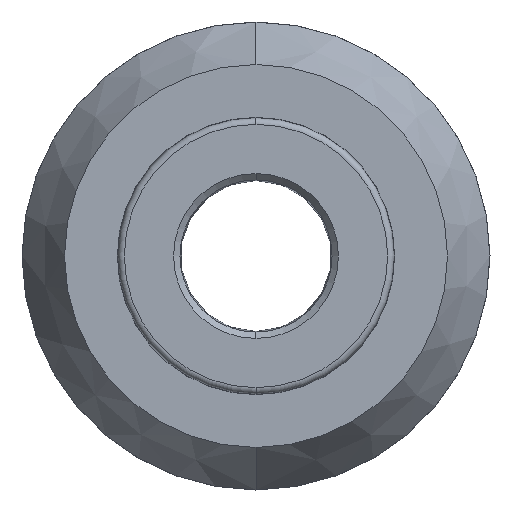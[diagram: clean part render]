
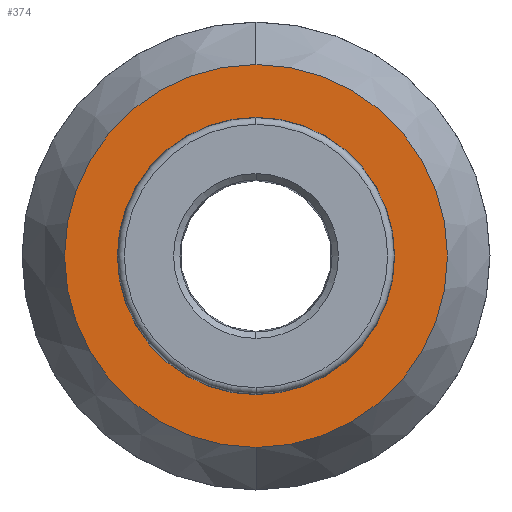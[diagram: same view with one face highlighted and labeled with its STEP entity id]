
A CAD part, left-side view. The second image highlights one B-rep face of the part: STEP entity #374.
In plain terms, the highlighted planar face has unit normal (-1, 0, 0).
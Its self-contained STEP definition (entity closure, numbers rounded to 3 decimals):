
#21 = CIRCLE ( 'NONE', #484, 6.516 ) ;
#57 = CARTESIAN_POINT ( 'NONE',  ( -9., 0., 6.516 ) ) ;
#64 = DIRECTION ( 'NONE',  ( -1., 0., 0. ) ) ;
#88 = AXIS2_PLACEMENT_3D ( 'NONE', #217, #687, #739 ) ;
#90 = PLANE ( 'NONE',  #88 ) ;
#92 = EDGE_CURVE ( 'NONE', #698, #493, #741, .T. ) ;
#101 = FACE_BOUND ( 'NONE', #295, .T. ) ;
#153 = DIRECTION ( 'NONE',  ( -1., 0., 0. ) ) ;
#156 = AXIS2_PLACEMENT_3D ( 'NONE', #222, #639, #690 ) ;
#163 = VERTEX_POINT ( 'NONE', #438 ) ;
#217 = CARTESIAN_POINT ( 'NONE',  ( -9., 9., 0. ) ) ;
#220 = DIRECTION ( 'NONE',  ( 0., 0., 1. ) ) ;
#222 = CARTESIAN_POINT ( 'NONE',  ( -9., 0., 0. ) ) ;
#234 = ORIENTED_EDGE ( 'NONE', *, *, #92, .T. ) ;
#258 = CIRCLE ( 'NONE', #156, 9. ) ;
#291 = CARTESIAN_POINT ( 'NONE',  ( -9., 0., 0. ) ) ;
#295 = EDGE_LOOP ( 'NONE', ( #575, #391 ) ) ;
#299 = DIRECTION ( 'NONE',  ( 0., 0., 1. ) ) ;
#313 = EDGE_CURVE ( 'NONE', #541, #163, #658, .T. ) ;
#374 = ADVANCED_FACE ( 'NONE', ( #101, #714 ), #90, .F. ) ;
#391 = ORIENTED_EDGE ( 'NONE', *, *, #633, .F. ) ;
#438 = CARTESIAN_POINT ( 'NONE',  ( -9., 0., -6.516 ) ) ;
#442 = EDGE_CURVE ( 'NONE', #493, #698, #258, .T. ) ;
#459 = AXIS2_PLACEMENT_3D ( 'NONE', #492, #64, #299 ) ;
#484 = AXIS2_PLACEMENT_3D ( 'NONE', #291, #542, #702 ) ;
#492 = CARTESIAN_POINT ( 'NONE',  ( -9., 0., 0. ) ) ;
#493 = VERTEX_POINT ( 'NONE', #529 ) ;
#529 = CARTESIAN_POINT ( 'NONE',  ( -9., 0., 9. ) ) ;
#533 = EDGE_LOOP ( 'NONE', ( #234, #644 ) ) ;
#541 = VERTEX_POINT ( 'NONE', #57 ) ;
#542 = DIRECTION ( 'NONE',  ( -1., 0., 0. ) ) ;
#553 = CARTESIAN_POINT ( 'NONE',  ( -9., 0., -9. ) ) ;
#575 = ORIENTED_EDGE ( 'NONE', *, *, #313, .F. ) ;
#600 = AXIS2_PLACEMENT_3D ( 'NONE', #682, #153, #220 ) ;
#633 = EDGE_CURVE ( 'NONE', #163, #541, #21, .T. ) ;
#639 = DIRECTION ( 'NONE',  ( -1., 0., 0. ) ) ;
#644 = ORIENTED_EDGE ( 'NONE', *, *, #442, .T. ) ;
#658 = CIRCLE ( 'NONE', #600, 6.516 ) ;
#682 = CARTESIAN_POINT ( 'NONE',  ( -9., 0., 0. ) ) ;
#687 = DIRECTION ( 'NONE',  ( 1., 0., 0. ) ) ;
#690 = DIRECTION ( 'NONE',  ( 0., 0., 1. ) ) ;
#698 = VERTEX_POINT ( 'NONE', #553 ) ;
#702 = DIRECTION ( 'NONE',  ( 0., 0., 1. ) ) ;
#714 = FACE_OUTER_BOUND ( 'NONE', #533, .T. ) ;
#739 = DIRECTION ( 'NONE',  ( 0., 0., -1. ) ) ;
#741 = CIRCLE ( 'NONE', #459, 9. ) ;
